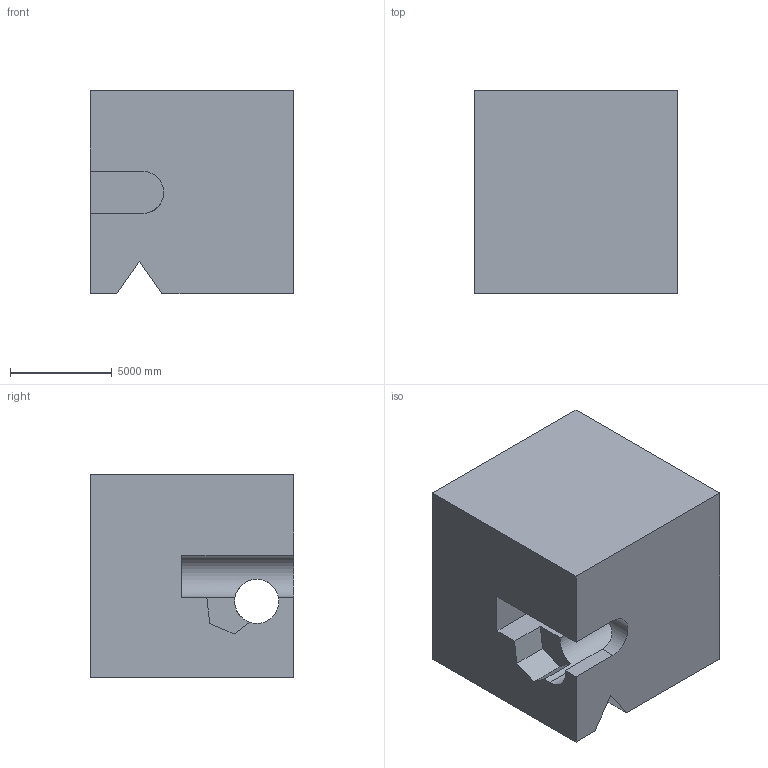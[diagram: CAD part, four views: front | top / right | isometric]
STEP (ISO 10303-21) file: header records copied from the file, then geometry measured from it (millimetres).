
FILE_DESCRIPTION (( 'STEP AP203' ), '1' );
FILE_NAME ('307.STEP', '2022-07-28T14:17:00', ( 'user' ), ( '' ), 'SwSTEP 2.0', 'SolidWorks 2021', '' );
FILE_SCHEMA (( 'CONFIG_CONTROL_DESIGN' ));
Length unit declared in the file: centimetre
Products named in the file (1): 307
Bounding box: 10000 x 10000 x 10000 mm (x, y, z)
Volume: 907046806585.2 mm3; surface area: 692563171 mm2
Topology: 1 solids, 1 shells, 20 faces, 57 edges, 38 vertices
Faces by surface type: plane 17, cylinder 3
Entity records: 914 total; most frequent: CARTESIAN_POINT 305, ORIENTED_EDGE 114, DIRECTION 104, EDGE_CURVE 57, LINE 48, VECTOR 48, VERTEX_POINT 38, AXIS2_PLACEMENT_3D 28
